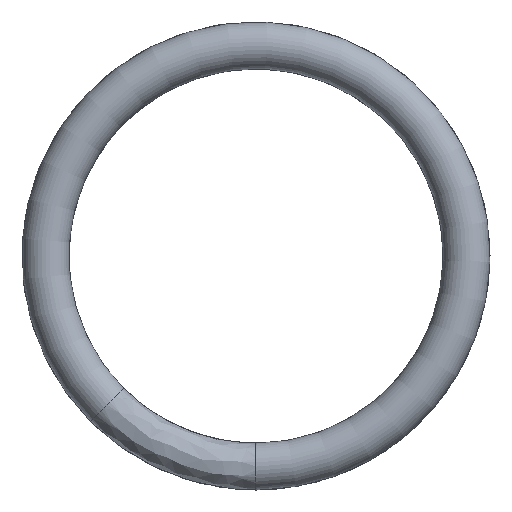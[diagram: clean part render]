
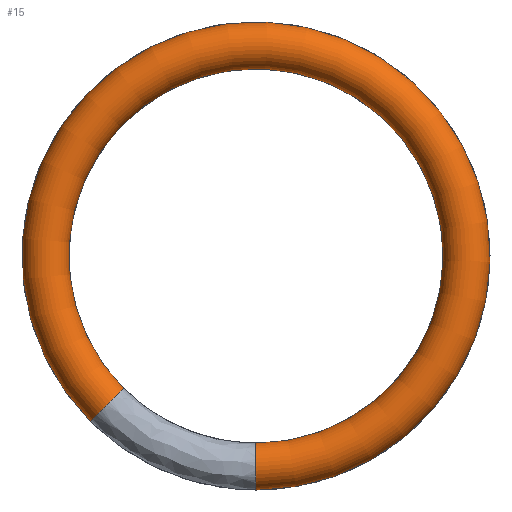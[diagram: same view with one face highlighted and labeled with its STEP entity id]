
A CAD part, front view. The second image highlights one B-rep face of the part: STEP entity #15.
In plain terms, the highlighted toroidal (fillet/blend) face has major radius 5.029 mm and minor radius 0.559 mm.
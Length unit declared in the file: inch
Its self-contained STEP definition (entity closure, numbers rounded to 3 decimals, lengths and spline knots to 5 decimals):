
#15 = ADVANCED_FACE ( 'NONE', ( #234 ), #232, .T. ) ;
#16 = EDGE_LOOP ( 'NONE', ( #17, #21, #155, #157 ) ) ;
#17 = ORIENTED_EDGE ( 'NONE', *, *, #18, .T. ) ;
#18 = EDGE_CURVE ( 'NONE', #19, #20, #265, .T. ) ;
#19 = VERTEX_POINT ( 'NONE', #260 ) ;
#20 = VERTEX_POINT ( 'NONE', #259 ) ;
#21 = ORIENTED_EDGE ( 'NONE', *, *, #22, .T. ) ;
#22 = EDGE_CURVE ( 'NONE', #20, #23, #258, .T. ) ;
#23 = VERTEX_POINT ( 'NONE', #253 ) ;
#24 = VERTEX_POINT ( 'NONE', #252 ) ;
#155 = ORIENTED_EDGE ( 'NONE', *, *, #156, .F. ) ;
#156 = EDGE_CURVE ( 'NONE', #24, #23, #951, .T. ) ;
#157 = ORIENTED_EDGE ( 'NONE', *, *, #158, .F. ) ;
#158 = EDGE_CURVE ( 'NONE', #19, #24, #971, .T. ) ;
#232 = TOROIDAL_SURFACE ( 'NONE', #268, 0.198, 0.022 ) ;
#233 = CARTESIAN_POINT ( 'NONE',  ( 0., 0., 0. ) ) ;
#234 = FACE_OUTER_BOUND ( 'NONE', #16, .T. ) ;
#252 = CARTESIAN_POINT ( 'NONE',  ( -0.12445, 0., -0.12445 ) ) ;
#253 = CARTESIAN_POINT ( 'NONE',  ( -0.15556, 0., -0.15556 ) ) ;
#254 = DIRECTION ( 'NONE',  ( 0., 0., -1. ) ) ;
#255 = DIRECTION ( 'NONE',  ( 0., -1., 0. ) ) ;
#256 = CARTESIAN_POINT ( 'NONE',  ( 0., 0., 0. ) ) ;
#257 = AXIS2_PLACEMENT_3D ( 'NONE', #256, #255, #254 ) ;
#258 = CIRCLE ( 'NONE', #257, 0.22 ) ;
#259 = CARTESIAN_POINT ( 'NONE',  ( 0., 0., -0.22 ) ) ;
#260 = CARTESIAN_POINT ( 'NONE',  ( 0., 0., -0.176 ) ) ;
#261 = DIRECTION ( 'NONE',  ( 0., 0., -1. ) ) ;
#262 = DIRECTION ( 'NONE',  ( 1., 0., 0. ) ) ;
#263 = CARTESIAN_POINT ( 'NONE',  ( 0., 0., -0.198 ) ) ;
#264 = AXIS2_PLACEMENT_3D ( 'NONE', #263, #262, #261 ) ;
#265 = CIRCLE ( 'NONE', #264, 0.022 ) ;
#266 = DIRECTION ( 'NONE',  ( 0., 0., -1. ) ) ;
#267 = DIRECTION ( 'NONE',  ( 0., -1., 0. ) ) ;
#268 = AXIS2_PLACEMENT_3D ( 'NONE', #233, #267, #266 ) ;
#946 = DIRECTION ( 'NONE',  ( -0.707, 0., -0.707 ) ) ;
#947 = DIRECTION ( 'NONE',  ( 0.707, 0., -0.707 ) ) ;
#948 = CARTESIAN_POINT ( 'NONE',  ( -0.14001, 0., -0.14001 ) ) ;
#949 = AXIS2_PLACEMENT_3D ( 'NONE', #948, #947, #946 ) ;
#951 = CIRCLE ( 'NONE', #949, 0.022 ) ;
#965 = DIRECTION ( 'NONE',  ( 0., 0., -1. ) ) ;
#969 = DIRECTION ( 'NONE',  ( 0., -1., 0. ) ) ;
#970 = AXIS2_PLACEMENT_3D ( 'NONE', #972, #969, #965 ) ;
#971 = CIRCLE ( 'NONE', #970, 0.176 ) ;
#972 = CARTESIAN_POINT ( 'NONE',  ( 0., 0., 0. ) ) ;
